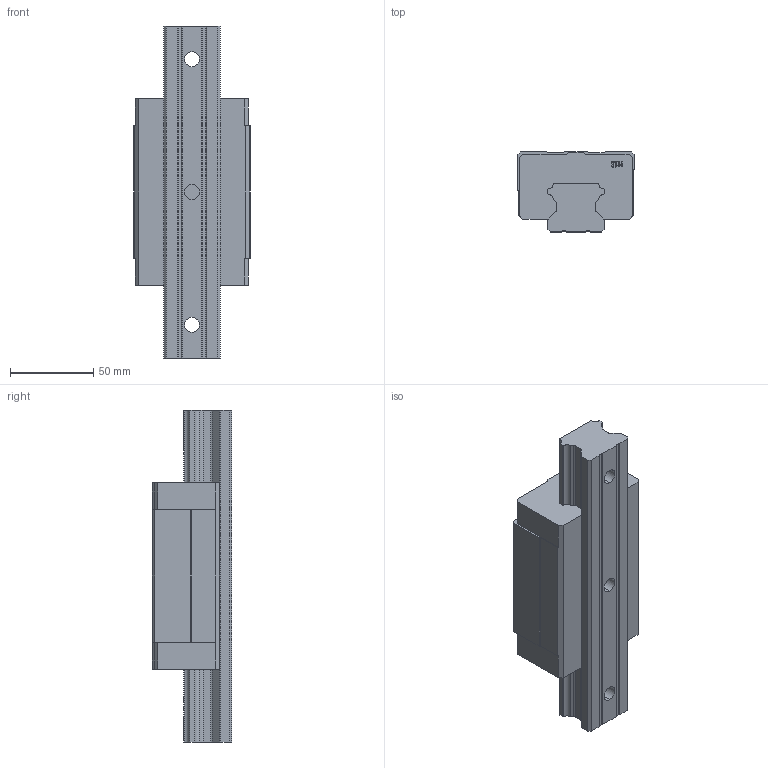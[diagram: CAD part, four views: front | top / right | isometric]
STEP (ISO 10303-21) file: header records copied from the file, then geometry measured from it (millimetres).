
FILE_DESCRIPTION (( 'STEP AP214' ), '1' );
FILE_NAME ('7.1075 Lineaarikelkka HTL35CA.STEP', '2026-03-12T13:56:39', ( '' ), ( '' ), 'SwSTEP 2.0', 'SolidWorks 2025', '' );
FILE_SCHEMA (( 'AUTOMOTIVE_DESIGN' ));
Length unit declared in the file: millimetre
Products named in the file (5): 7.1075 Lineaarikelkka HTL35CA; HGH35_ASM_2_ASM_ASM; HTH35C_ASM_ASM; HGR35_1; HGH35_1
Assembly tree (4 placements, depth 4):
  7.1075 Lineaarikelkka HTL35CA
    HTH35C_ASM_ASM
      HGH35_ASM_2_ASM_ASM
        HGH35_1
        HGR35_1
Bounding box: 70 x 48 x 200 mm (x, y, z)
Volume: 401110.7 mm3; surface area: 65689.7 mm2
Topology: 2 solids, 2 shells, 793 faces, 2244 edges, 1496 vertices
Faces by surface type: plane 688, bspline 67, cylinder 38
Entity records: 37001 total; most frequent: CARTESIAN_POINT 7901, ORIENTED_EDGE 4488, DIRECTION 3656, EDGE_CURVE 2244, LINE 2034, VECTOR 2034, VERTEX_POINT 1496, EDGE_LOOP 840
